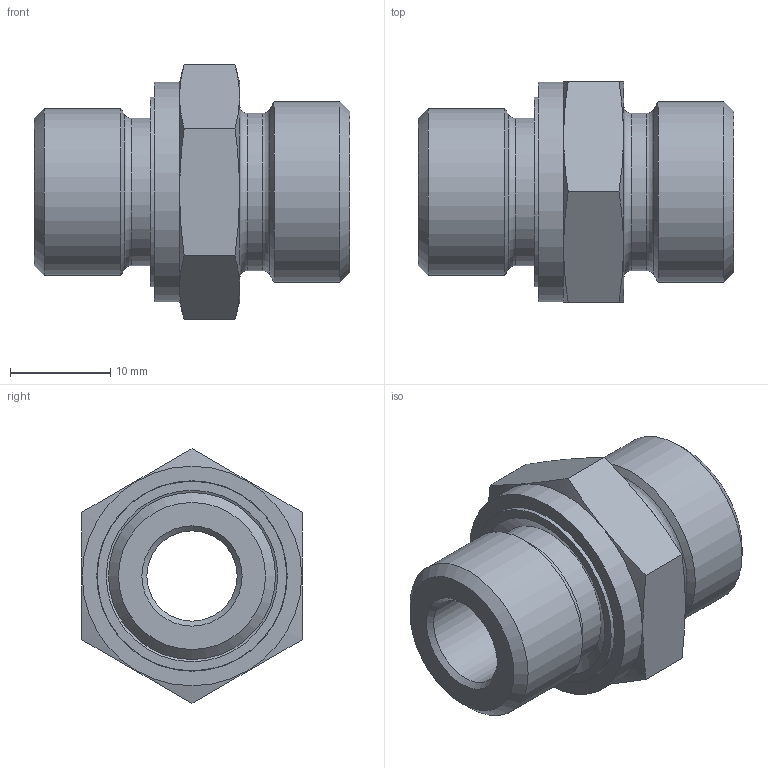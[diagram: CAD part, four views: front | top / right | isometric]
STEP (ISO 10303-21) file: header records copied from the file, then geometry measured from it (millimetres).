
FILE_DESCRIPTION( ( 'Unknown' ), '1' );
FILE_NAME( 'C:/Users/p.nanko/Desktop/3D SR/XGE12LED03.stp', 'Unknown', ( 'Peter Nanko' ), ( 'Armaturen Arndt' ), 'PSStep 14.0', 'Solid Edge ST4', ' ' );
FILE_SCHEMA( ( 'AUTOMOTIVE_DESIGN { 1 0 10303 214 1 1 1 1 }' ) );
Length unit declared in the file: millimetre
Products named in the file (3): Assem1; EDRING03; XGE12LED033
Assembly tree (2 placements, depth 2):
  Assem1
    EDRING03
    XGE12LED033
Bounding box: 31.5 x 22 x 25.4 mm (x, y, z)
Volume: 6026.8 mm3; surface area: 4016.5 mm2
Topology: 2 solids, 2 shells, 37 faces, 74 edges, 45 vertices
Faces by surface type: plane 14, cylinder 10, cone 9, torus 4
Full cylindrical faces by diameter (mm): 9 x1, 12 x1, 14.7 x2, 15.7 x1, 16.662 x1, 18 x1, 18.9 x1, 19 x1, 21.9 x1
Entity records: 1246 total; most frequent: CARTESIAN_POINT 230, DIRECTION 146, ORIENTED_EDGE 96, AXIS2_PLACEMENT_3D 70, EDGE_LOOP 68, FACE_OUTER_BOUND 51, EDGE_CURVE 48, VERTEX_POINT 42
